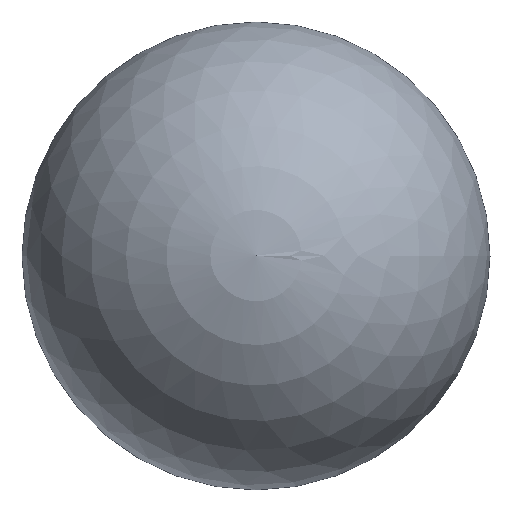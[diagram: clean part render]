
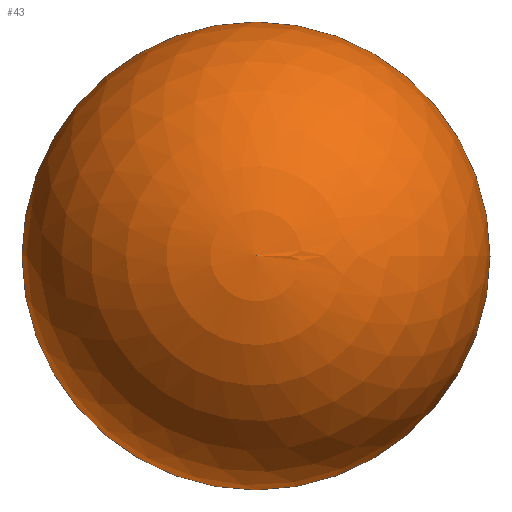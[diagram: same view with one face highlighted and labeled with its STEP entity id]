
A CAD part, top view. The second image highlights one B-rep face of the part: STEP entity #43.
In plain terms, the highlighted spherical face has radius 20 mm.
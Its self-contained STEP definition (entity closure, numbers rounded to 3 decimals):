
#18=CARTESIAN_POINT('',(0.0,0.0,0.));
#19=DIRECTION('',(0.0,0.0,1.0));
#20=DIRECTION('',(1.0,0.0,0.0));
#21=AXIS2_PLACEMENT_3D('',#18,#19,#20);
#22=CIRCLE('',#21,20.0);
#23=CARTESIAN_POINT('',(20.0,0.0,0.));
#24=VERTEX_POINT('',#23);
#25=EDGE_CURVE('',#24,#24,#22,.T.);
#35=CARTESIAN_POINT('',(0.0,0.0,0.0));
#36=DIRECTION('',(0.0,0.0,1.0));
#37=DIRECTION('',(1.0,0.0,0.0));
#38=AXIS2_PLACEMENT_3D('',#35,#36,#37);
#39=SPHERICAL_SURFACE('',#38,20.0);
#40=ORIENTED_EDGE('',*,*,#25,.T.);
#41=EDGE_LOOP('',(#40));
#42=FACE_OUTER_BOUND('',#41,.T.);
#43=ADVANCED_FACE('',(#42),#39,.T.);
